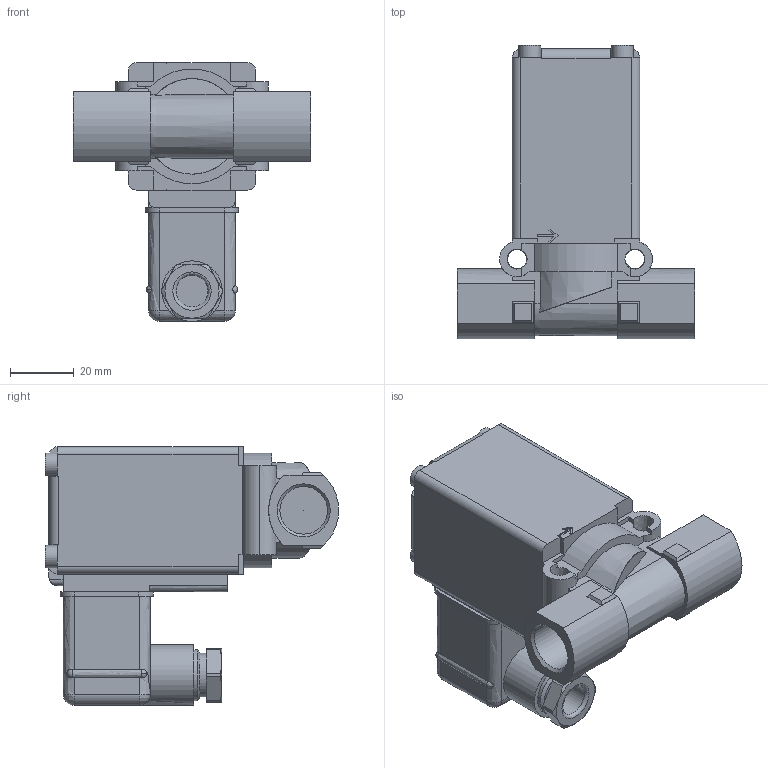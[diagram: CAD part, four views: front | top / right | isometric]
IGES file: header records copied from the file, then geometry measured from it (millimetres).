
Start section: Data from Parasolid IGES Translator 26.0.171, Copyright(c) 2006 Siemens PLM Software. All Rights Reserved.
Global section: file name: 0256-145805-2_2-way_Solenoid_Valve.igs; native system: By Siemens PLM Incorporated; preprocessor: XPlus GENERIC/IGES 26.0.171; author: Noname; organization: Noname; date: 20240731.170808; units: millimetre
Bounding box: 74.5 x 92.1 x 81.2 mm (x, y, z)
Surface area: 28225.8 mm2 (no closed solid volume)
Topology: 0 solids, 0 shells, 248 faces, 1316 edges, 1288 vertices
Faces by surface type: extrusion 160, revolution 88
